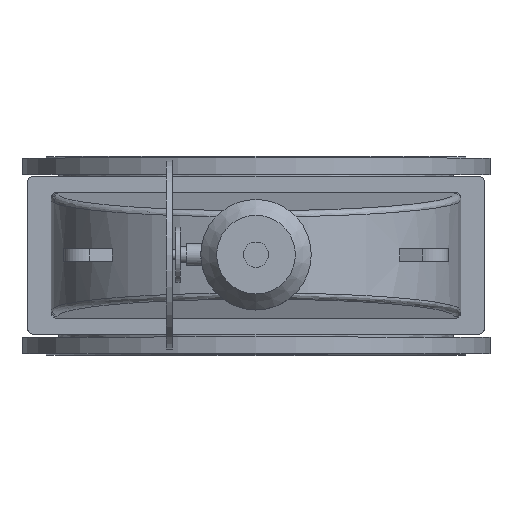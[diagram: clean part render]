
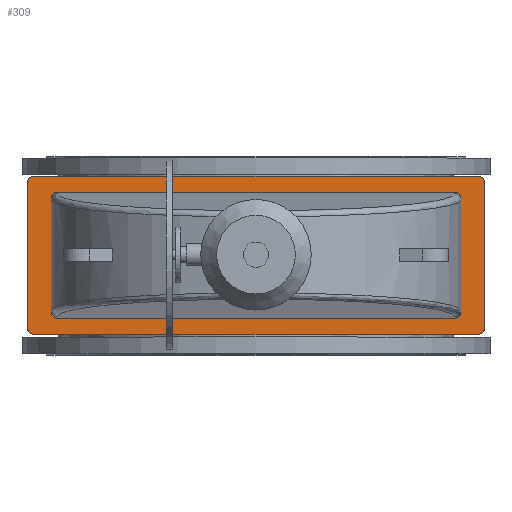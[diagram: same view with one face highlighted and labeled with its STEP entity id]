
A CAD part, top view. The second image highlights one B-rep face of the part: STEP entity #309.
In plain terms, the highlighted planar face has unit normal (0, 0, 1).
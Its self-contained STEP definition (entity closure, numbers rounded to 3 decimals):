
#309=ADVANCED_FACE('',(#4230,#4232),#4234,.T.);
#4230=FACE_BOUND('',#4231,.T.);
#4231=EDGE_LOOP('',(#10288,#10289,#10290,#10291,#10292,#10293,#10294,#10295));
#4232=FACE_BOUND('',#4233,.T.);
#4233=EDGE_LOOP('',(#10296,#10297,#10298,#10299,#10300,#10301,#10302,#10303));
#4234=PLANE('',#4235);
#4235=AXIS2_PLACEMENT_3D('',#4236,#4237,#4238);
#4236=CARTESIAN_POINT('',(0.,0.,1316.));
#4237=DIRECTION('',(0.,-0.,1.));
#4238=DIRECTION('',(0.,1.,0.));
#10288=ORIENTED_EDGE('',*,*,#11956,.F.);
#10289=ORIENTED_EDGE('',*,*,#11957,.T.);
#10290=ORIENTED_EDGE('',*,*,#11958,.F.);
#10291=ORIENTED_EDGE('',*,*,#11959,.T.);
#10292=ORIENTED_EDGE('',*,*,#11960,.F.);
#10293=ORIENTED_EDGE('',*,*,#11961,.T.);
#10294=ORIENTED_EDGE('',*,*,#11962,.F.);
#10295=ORIENTED_EDGE('',*,*,#11963,.T.);
#10296=ORIENTED_EDGE('',*,*,#11954,.F.);
#10297=ORIENTED_EDGE('',*,*,#11953,.F.);
#10298=ORIENTED_EDGE('',*,*,#11955,.F.);
#10299=ORIENTED_EDGE('',*,*,#11928,.F.);
#10300=ORIENTED_EDGE('',*,*,#11964,.F.);
#10301=ORIENTED_EDGE('',*,*,#11965,.F.);
#10302=ORIENTED_EDGE('',*,*,#11966,.F.);
#10303=ORIENTED_EDGE('',*,*,#11921,.F.);
#11921=EDGE_CURVE('',#12801,#12803,#12804,.T.);
#11928=EDGE_CURVE('',#12813,#12811,#12815,.T.);
#11953=EDGE_CURVE('',#12854,#12852,#12856,.T.);
#11954=EDGE_CURVE('',#12852,#12801,#12857,.F.);
#11955=EDGE_CURVE('',#12811,#12854,#12858,.T.);
#11956=EDGE_CURVE('',#12859,#12860,#12861,.F.);
#11957=EDGE_CURVE('',#12859,#12862,#12863,.T.);
#11958=EDGE_CURVE('',#12864,#12862,#12865,.F.);
#11959=EDGE_CURVE('',#12864,#12866,#12867,.T.);
#11960=EDGE_CURVE('',#12868,#12866,#12869,.F.);
#11961=EDGE_CURVE('',#12868,#12870,#12871,.T.);
#11962=EDGE_CURVE('',#12872,#12870,#12873,.F.);
#11963=EDGE_CURVE('',#12872,#12860,#12874,.T.);
#11964=EDGE_CURVE('',#12875,#12813,#12876,.F.);
#11965=EDGE_CURVE('',#12877,#12875,#12878,.T.);
#11966=EDGE_CURVE('',#12803,#12877,#12879,.T.);
#12801=VERTEX_POINT('',#14454);
#12803=VERTEX_POINT('',#14458);
#12804=LINE('',#14459,#14460);
#12811=VERTEX_POINT('',#14479);
#12813=VERTEX_POINT('',#14483);
#12815=LINE('',#14487,#14488);
#12852=VERTEX_POINT('',#14580);
#12854=VERTEX_POINT('',#14584);
#12856=LINE('',#14588,#14589);
#12857=(BOUNDED_CURVE()B_SPLINE_CURVE(3,
(#14591,#14592,#14593,#14594),
.UNSPECIFIED.,.F.,.F.)B_SPLINE_CURVE_WITH_KNOTS((4,4),
(0.,1.),
.UNSPECIFIED.)CURVE()GEOMETRIC_REPRESENTATION_ITEM()RATIONAL_B_SPLINE_CURVE((1.,
0.805,0.805,1.))REPRESENTATION_ITEM(''));
#12858=(BOUNDED_CURVE()B_SPLINE_CURVE(3,
(#14595,#14596,#14597,#14598),
.UNSPECIFIED.,.F.,.F.)B_SPLINE_CURVE_WITH_KNOTS((4,4),
(0.,1.),
.UNSPECIFIED.)CURVE()GEOMETRIC_REPRESENTATION_ITEM()RATIONAL_B_SPLINE_CURVE((1.,
0.805,0.805,1.))REPRESENTATION_ITEM(''));
#12859=VERTEX_POINT('',#14599);
#12860=VERTEX_POINT('',#14600);
#12861=CIRCLE('',#14601,20.);
#12862=VERTEX_POINT('',#14605);
#12863=LINE('',#14606,#14607);
#12864=VERTEX_POINT('',#14609);
#12865=CIRCLE('',#14610,20.);
#12866=VERTEX_POINT('',#14614);
#12867=LINE('',#14615,#14616);
#12868=VERTEX_POINT('',#14618);
#12869=CIRCLE('',#14619,20.);
#12870=VERTEX_POINT('',#14623);
#12871=LINE('',#14624,#14625);
#12872=VERTEX_POINT('',#14627);
#12873=CIRCLE('',#14628,20.);
#12874=LINE('',#14632,#14633);
#12875=VERTEX_POINT('',#14635);
#12876=(BOUNDED_CURVE()B_SPLINE_CURVE(3,
(#14636,#14637,#14638,#14639),
.UNSPECIFIED.,.F.,.F.)B_SPLINE_CURVE_WITH_KNOTS((4,4),
(0.,1.),
.UNSPECIFIED.)CURVE()GEOMETRIC_REPRESENTATION_ITEM()RATIONAL_B_SPLINE_CURVE((1.,
0.805,0.805,1.))REPRESENTATION_ITEM(''));
#12877=VERTEX_POINT('',#14640);
#12878=LINE('',#14641,#14642);
#12879=(BOUNDED_CURVE()B_SPLINE_CURVE(3,
(#14644,#14645,#14646,#14647),
.UNSPECIFIED.,.F.,.F.)B_SPLINE_CURVE_WITH_KNOTS((4,4),
(0.,1.),
.UNSPECIFIED.)CURVE()GEOMETRIC_REPRESENTATION_ITEM()RATIONAL_B_SPLINE_CURVE((1.,
0.805,0.805,1.))REPRESENTATION_ITEM(''));
#14454=CARTESIAN_POINT('',(650.,-179.924,1316.));
#14458=CARTESIAN_POINT('',(650.,179.924,1316.));
#14459=CARTESIAN_POINT('',(650.,-179.924,1316.));
#14460=VECTOR('',#14461,1.);
#14461=DIRECTION('',(0.,1.,0.));
#14479=CARTESIAN_POINT('',(-650.,-179.924,1316.));
#14483=CARTESIAN_POINT('',(-650.,179.924,1316.));
#14487=CARTESIAN_POINT('',(-650.,179.924,1316.));
#14488=VECTOR('',#14489,1.);
#14489=DIRECTION('',(0.,-1.,0.));
#14580=CARTESIAN_POINT('',(630.,-200.,1316.));
#14584=CARTESIAN_POINT('',(-630.,-200.,1316.));
#14588=CARTESIAN_POINT('',(-630.,-200.,1316.));
#14589=VECTOR('',#14590,1.);
#14590=DIRECTION('',(1.,0.,0.));
#14591=CARTESIAN_POINT('',(650.,-179.924,1316.));
#14592=CARTESIAN_POINT('',(650.,-191.684,1316.));
#14593=CARTESIAN_POINT('',(641.716,-200.,1316.));
#14594=CARTESIAN_POINT('',(630.,-200.,1316.));
#14595=CARTESIAN_POINT('',(-650.,-179.924,1316.));
#14596=CARTESIAN_POINT('',(-650.,-191.684,1316.));
#14597=CARTESIAN_POINT('',(-641.716,-200.,1316.));
#14598=CARTESIAN_POINT('',(-630.,-200.,1316.));
#14599=CARTESIAN_POINT('',(-705.,-250.,1316.));
#14600=CARTESIAN_POINT('',(-725.,-230.,1316.));
#14601=AXIS2_PLACEMENT_3D('',#14602,#14603,#14604);
#14602=CARTESIAN_POINT('',(-705.,-230.,1316.));
#14603=DIRECTION('',(0.,-0.,1.));
#14604=DIRECTION('',(-1.,0.,0.));
#14605=CARTESIAN_POINT('',(705.,-250.,1316.));
#14606=CARTESIAN_POINT('',(-705.,-250.,1316.));
#14607=VECTOR('',#14608,1.);
#14608=DIRECTION('',(1.,0.,0.));
#14609=CARTESIAN_POINT('',(725.,-230.,1316.));
#14610=AXIS2_PLACEMENT_3D('',#14611,#14612,#14613);
#14611=CARTESIAN_POINT('',(705.,-230.,1316.));
#14612=DIRECTION('',(0.,-0.,1.));
#14613=DIRECTION('',(0.,-1.,0.));
#14614=CARTESIAN_POINT('',(725.,230.,1316.));
#14615=CARTESIAN_POINT('',(725.,-230.,1316.));
#14616=VECTOR('',#14617,1.);
#14617=DIRECTION('',(0.,1.,0.));
#14618=CARTESIAN_POINT('',(705.,250.,1316.));
#14619=AXIS2_PLACEMENT_3D('',#14620,#14621,#14622);
#14620=CARTESIAN_POINT('',(705.,230.,1316.));
#14621=DIRECTION('',(0.,-0.,1.));
#14622=DIRECTION('',(1.,0.,0.));
#14623=CARTESIAN_POINT('',(-705.,250.,1316.));
#14624=CARTESIAN_POINT('',(705.,250.,1316.));
#14625=VECTOR('',#14626,1.);
#14626=DIRECTION('',(-1.,0.,0.));
#14627=CARTESIAN_POINT('',(-725.,230.,1316.));
#14628=AXIS2_PLACEMENT_3D('',#14629,#14630,#14631);
#14629=CARTESIAN_POINT('',(-705.,230.,1316.));
#14630=DIRECTION('',(0.,-0.,1.));
#14631=DIRECTION('',(0.,1.,0.));
#14632=CARTESIAN_POINT('',(-725.,230.,1316.));
#14633=VECTOR('',#14634,1.);
#14634=DIRECTION('',(0.,-1.,0.));
#14635=CARTESIAN_POINT('',(-630.,200.,1316.));
#14636=CARTESIAN_POINT('',(-650.,179.924,1316.));
#14637=CARTESIAN_POINT('',(-650.,191.684,1316.));
#14638=CARTESIAN_POINT('',(-641.716,200.,1316.));
#14639=CARTESIAN_POINT('',(-630.,200.,1316.));
#14640=CARTESIAN_POINT('',(630.,200.,1316.));
#14641=CARTESIAN_POINT('',(630.,200.,1316.));
#14642=VECTOR('',#14643,1.);
#14643=DIRECTION('',(-1.,0.,0.));
#14644=CARTESIAN_POINT('',(650.,179.924,1316.));
#14645=CARTESIAN_POINT('',(650.,191.684,1316.));
#14646=CARTESIAN_POINT('',(641.716,200.,1316.));
#14647=CARTESIAN_POINT('',(630.,200.,1316.));
